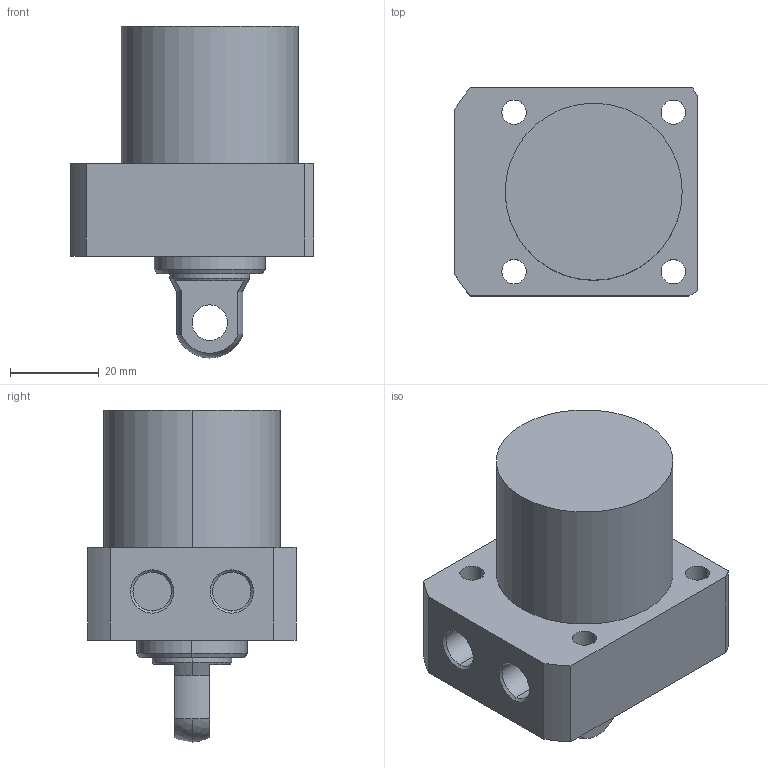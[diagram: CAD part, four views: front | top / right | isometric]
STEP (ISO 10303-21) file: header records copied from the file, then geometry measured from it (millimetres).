
FILE_DESCRIPTION (( 'STEP AP203' ), '1' );
FILE_NAME ('CLL-R040-CP-020.STEP', '2017-05-10T11:22:34', ( '' ), ( '' ), 'SwSTEP 2.0', 'SolidWorks 2015', '' );
FILE_SCHEMA (( 'CONFIG_CONTROL_DESIGN' ));
Length unit declared in the file: millimetre
Products named in the file (1): CLL-R040-CP-020
Bounding box: 55 x 47 x 75 mm (x, y, z)
Volume: 92645.7 mm3; surface area: 16392.8 mm2
Topology: 1 solids, 1 shells, 57 faces, 135 edges, 87 vertices
Faces by surface type: cylinder 29, plane 18, cone 8, sphere 2
Entity records: 1770 total; most frequent: DIRECTION 319, CARTESIAN_POINT 292, ORIENTED_EDGE 270, EDGE_CURVE 135, AXIS2_PLACEMENT_3D 130, VERTEX_POINT 87, EDGE_LOOP 74, CIRCLE 72
